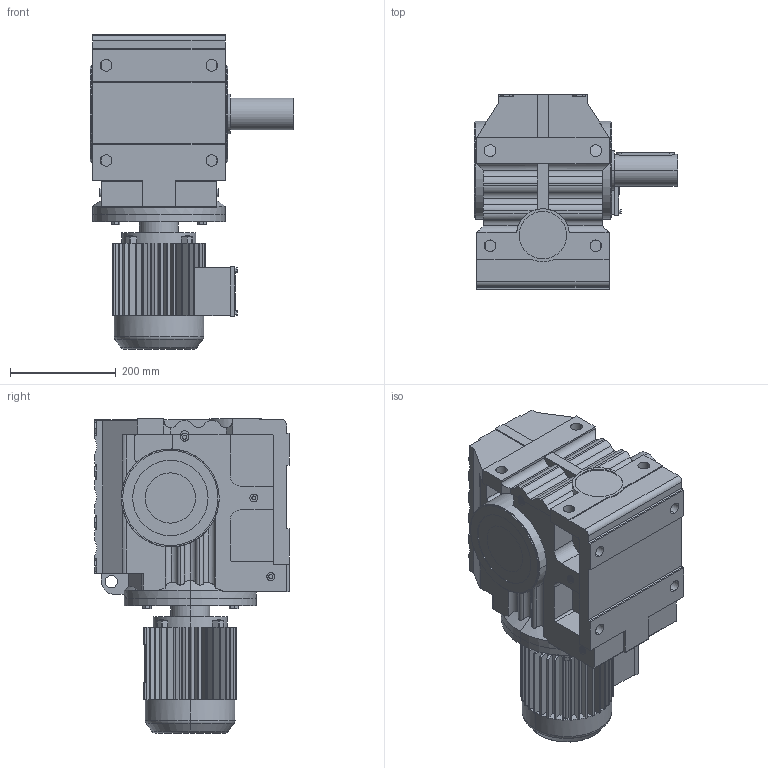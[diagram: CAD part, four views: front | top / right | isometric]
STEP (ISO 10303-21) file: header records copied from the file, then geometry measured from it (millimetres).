
FILE_DESCRIPTION(('Open CASCADE Model'),'2;1');
FILE_NAME('Open CASCADE Shape Model','2018-09-12T14:51:57',('Author'),( 'Open CASCADE'),'Open CASCADE STEP processor 6.3','Open CASCADE 6.3' ,'Unknown');
FILE_SCHEMA(('AUTOMOTIVE_DESIGN_CC2 { 1 2 10303 214 -1 1 5 4 }'));
Length unit declared in the file: millimetre
Products named in the file (4): 277_S87-Y80M-A; S47‵97_87.step; 萇儂_250_Y80M.step; す瑩妗陑粣S_87_S.step
Assembly tree (3 placements, depth 2):
  277_S87-Y80M-A
    S47‵97_87.step
    萇儂_250_Y80M.step
    す瑩妗陑粣S_87_S.step
Bounding box: 385 x 368 x 595 mm (x, y, z)
Volume: 30653507.2 mm3; surface area: 1333182.2 mm2
Topology: 3 solids, 3 shells, 860 faces, 2313 edges, 1497 vertices
Faces by surface type: plane 556, cylinder 287, cone 13, torus 4
Entity records: 65102 total; most frequent: CARTESIAN_POINT 21792, DIRECTION 7329, ORIENTED_EDGE 4622, PCURVE 4622, DEFINITIONAL_REPRESENTATION 4622, LINE 3861, VECTOR 3861, EDGE_CURVE 2311
